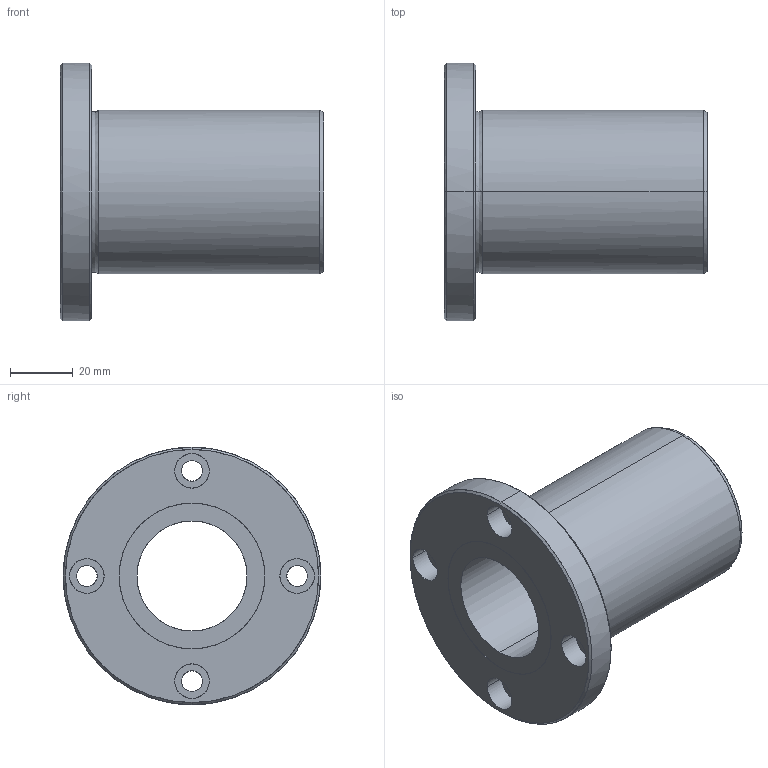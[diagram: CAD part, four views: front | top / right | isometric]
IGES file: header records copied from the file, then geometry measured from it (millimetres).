
Global section: file name: No Iges File Name specified; native system: AutoDesk Inventor R11.0; preprocessor: AutoDesk Inventor Iges Exporter R11.0; author: No Author specified; organization: No Organization specified; date: 20170921.115442; units: millimetre
Bounding box: 84 x 82 x 82 mm (x, y, z)
Surface area: 33221.9 mm2 (no closed solid volume)
Topology: 0 solids, 0 shells, 43 faces, 308 edges, 308 vertices
Faces by surface type: bspline 43
